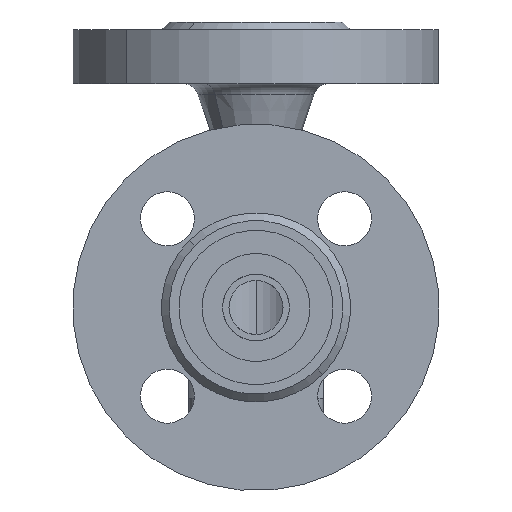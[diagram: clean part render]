
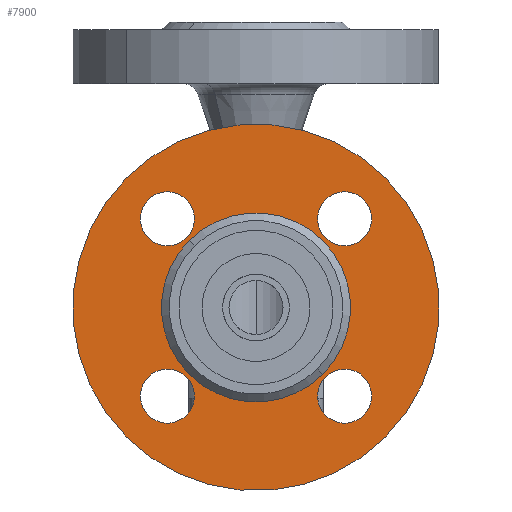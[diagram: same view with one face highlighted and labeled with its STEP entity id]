
A CAD part, left-side view. The second image highlights one B-rep face of the part: STEP entity #7900.
In plain terms, the highlighted planar face has unit normal (-1, 0, 0) as drawn and (0, -1, 0) by its records, which use the part's own axes.
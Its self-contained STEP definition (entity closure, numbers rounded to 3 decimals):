
#370 = FACE_BOUND ( 'NONE', #7825, .T. ) ;
#371 = FACE_BOUND ( 'NONE', #2601, .T. ) ;
#372 = FACE_BOUND ( 'NONE', #7923, .T. ) ;
#373 = FACE_BOUND ( 'NONE', #7077, .T. ) ;
#374 = FACE_OUTER_BOUND ( 'NONE', #1748, .T. ) ;
#375 = FACE_BOUND ( 'NONE', #4301, .T. ) ;
#376 = PLANE ( 'NONE',  #379 ) ;
#379 = AXIS2_PLACEMENT_3D ( 'NONE', #380, #381, #382 ) ;
#380 = CARTESIAN_POINT ( 'NONE',  ( 24.5, 2., 0. ) ) ;
#381 = DIRECTION ( 'NONE',  ( 0., 1., 0. ) ) ;
#382 = DIRECTION ( 'NONE',  ( -1., 0., 0. ) ) ;
#571 = CARTESIAN_POINT ( 'NONE',  ( 7., 2., -32.5 ) ) ;
#574 = CARTESIAN_POINT ( 'NONE',  ( 7., 2., 32.5 ) ) ;
#585 = CARTESIAN_POINT ( 'NONE',  ( 24.5, 2., 0. ) ) ;
#599 = CARTESIAN_POINT ( 'NONE',  ( -7., 2., 32.5 ) ) ;
#754 = ORIENTED_EDGE ( 'NONE', *, *, #8033, .F. ) ;
#833 = CARTESIAN_POINT ( 'NONE',  ( -7., 2., -32.5 ) ) ;
#951 = VERTEX_POINT ( 'NONE', #10657 ) ;
#1168 = VERTEX_POINT ( 'NONE', #10724 ) ;
#1261 = ORIENTED_EDGE ( 'NONE', *, *, #3590, .F. ) ;
#1383 = EDGE_CURVE ( 'NONE', #1168, #951, #11067, .T. ) ;
#1588 = CARTESIAN_POINT ( 'NONE',  ( 47.5, 2., 0. ) ) ;
#1748 = EDGE_LOOP ( 'NONE', ( #1261, #754 ) ) ;
#1979 = ORIENTED_EDGE ( 'NONE', *, *, #1383, .T. ) ;
#2199 = CARTESIAN_POINT ( 'NONE',  ( -47.5, 2., 0. ) ) ;
#2432 = CIRCLE ( 'NONE', #2433, 47.5 ) ;
#2433 = AXIS2_PLACEMENT_3D ( 'NONE', #2434, #2435, #2436 ) ;
#2434 = CARTESIAN_POINT ( 'NONE',  ( 0., 2., 0. ) ) ;
#2435 = DIRECTION ( 'NONE',  ( 0., 1., 0. ) ) ;
#2436 = DIRECTION ( 'NONE',  ( -1., 0., 0. ) ) ;
#2438 = CIRCLE ( 'NONE', #2439, 47.5 ) ;
#2439 = AXIS2_PLACEMENT_3D ( 'NONE', #2440, #2441, #2442 ) ;
#2440 = CARTESIAN_POINT ( 'NONE',  ( 0., 2., 0. ) ) ;
#2441 = DIRECTION ( 'NONE',  ( 0., 1., 0. ) ) ;
#2442 = DIRECTION ( 'NONE',  ( -1., 0., 0. ) ) ;
#2601 = EDGE_LOOP ( 'NONE', ( #2829, #7943 ) ) ;
#2829 = ORIENTED_EDGE ( 'NONE', *, *, #4842, .T. ) ;
#3148 = VERTEX_POINT ( 'NONE', #1588 ) ;
#3298 = ORIENTED_EDGE ( 'NONE', *, *, #5852, .T. ) ;
#3371 = VERTEX_POINT ( 'NONE', #2199 ) ;
#3590 = EDGE_CURVE ( 'NONE', #3371, #3148, #2432, .T. ) ;
#3805 = ORIENTED_EDGE ( 'NONE', *, *, #5715, .T. ) ;
#4301 = EDGE_LOOP ( 'NONE', ( #3805, #3298 ) ) ;
#4722 = CARTESIAN_POINT ( 'NONE',  ( -39.5, 2., 0. ) ) ;
#4762 = CIRCLE ( 'NONE', #4763, 7. ) ;
#4763 = AXIS2_PLACEMENT_3D ( 'NONE', #4764, #4765, #4766 ) ;
#4764 = CARTESIAN_POINT ( 'NONE',  ( 0., 2., 32.5 ) ) ;
#4765 = DIRECTION ( 'NONE',  ( 0., 1., 0. ) ) ;
#4766 = DIRECTION ( 'NONE',  ( -1., 0., 0. ) ) ;
#4823 = CIRCLE ( 'NONE', #4824, 7. ) ;
#4824 = AXIS2_PLACEMENT_3D ( 'NONE', #4825, #4826, #4827 ) ;
#4825 = CARTESIAN_POINT ( 'NONE',  ( -32.5, 2., 0. ) ) ;
#4826 = DIRECTION ( 'NONE',  ( 0., 1., 0. ) ) ;
#4827 = DIRECTION ( 'NONE',  ( -1., 0., 0. ) ) ;
#4842 = EDGE_CURVE ( 'NONE', #8154, #7823, #4823, .T. ) ;
#5500 = VERTEX_POINT ( 'NONE', #5586 ) ;
#5586 = CARTESIAN_POINT ( 'NONE',  ( -24.5, 2., 0. ) ) ;
#5623 = ORIENTED_EDGE ( 'NONE', *, *, #7777, .T. ) ;
#5628 = CIRCLE ( 'NONE', #5629, 7. ) ;
#5629 = AXIS2_PLACEMENT_3D ( 'NONE', #5630, #5631, #5632 ) ;
#5630 = CARTESIAN_POINT ( 'NONE',  ( 0., 2., 32.5 ) ) ;
#5631 = DIRECTION ( 'NONE',  ( 0., 1., 0. ) ) ;
#5632 = DIRECTION ( 'NONE',  ( -1., 0., 0. ) ) ;
#5660 = EDGE_CURVE ( 'NONE', #6809, #9694, #5628, .T. ) ;
#5715 = EDGE_CURVE ( 'NONE', #5500, #6845, #5831, .T. ) ;
#5831 = CIRCLE ( 'NONE', #5832, 24.5 ) ;
#5832 = AXIS2_PLACEMENT_3D ( 'NONE', #5834, #5835, #5836 ) ;
#5834 = CARTESIAN_POINT ( 'NONE',  ( 0., 2., 0. ) ) ;
#5835 = DIRECTION ( 'NONE',  ( 0., 1., 0. ) ) ;
#5836 = DIRECTION ( 'NONE',  ( -1., 0., 0. ) ) ;
#5852 = EDGE_CURVE ( 'NONE', #6845, #5500, #6081, .T. ) ;
#6081 = CIRCLE ( 'NONE', #6082, 24.5 ) ;
#6082 = AXIS2_PLACEMENT_3D ( 'NONE', #6083, #6084, #6085 ) ;
#6083 = CARTESIAN_POINT ( 'NONE',  ( 0., 2., 0. ) ) ;
#6084 = DIRECTION ( 'NONE',  ( 0., 1., 0. ) ) ;
#6085 = DIRECTION ( 'NONE',  ( -1., 0., 0. ) ) ;
#6459 = ORIENTED_EDGE ( 'NONE', *, *, #7820, .T. ) ;
#6736 = ORIENTED_EDGE ( 'NONE', *, *, #7831, .T. ) ;
#6809 = VERTEX_POINT ( 'NONE', #574 ) ;
#6845 = VERTEX_POINT ( 'NONE', #585 ) ;
#7077 = EDGE_LOOP ( 'NONE', ( #6736, #1979 ) ) ;
#7084 = CIRCLE ( 'NONE', #7085, 7. ) ;
#7085 = AXIS2_PLACEMENT_3D ( 'NONE', #7086, #7087, #7088 ) ;
#7086 = CARTESIAN_POINT ( 'NONE',  ( -32.5, 2., 0. ) ) ;
#7087 = DIRECTION ( 'NONE',  ( 0., 1., 0. ) ) ;
#7088 = DIRECTION ( 'NONE',  ( -1., 0., 0. ) ) ;
#7307 = ORIENTED_EDGE ( 'NONE', *, *, #5660, .T. ) ;
#7777 = EDGE_CURVE ( 'NONE', #7927, #9606, #10618, .T. ) ;
#7820 = EDGE_CURVE ( 'NONE', #9606, #7927, #11006, .T. ) ;
#7823 = VERTEX_POINT ( 'NONE', #11052 ) ;
#7825 = EDGE_LOOP ( 'NONE', ( #5623, #6459 ) ) ;
#7831 = EDGE_CURVE ( 'NONE', #951, #1168, #11077, .T. ) ;
#7889 = ORIENTED_EDGE ( 'NONE', *, *, #8163, .T. ) ;
#7900 = ADVANCED_FACE ( 'NONE', ( #370, #371, #372, #373, #374, #375 ), #376, .F. ) ;
#7923 = EDGE_LOOP ( 'NONE', ( #7889, #7307 ) ) ;
#7927 = VERTEX_POINT ( 'NONE', #833 ) ;
#7943 = ORIENTED_EDGE ( 'NONE', *, *, #8833, .T. ) ;
#8033 = EDGE_CURVE ( 'NONE', #3148, #3371, #2438, .T. ) ;
#8154 = VERTEX_POINT ( 'NONE', #4722 ) ;
#8163 = EDGE_CURVE ( 'NONE', #9694, #6809, #4762, .T. ) ;
#8833 = EDGE_CURVE ( 'NONE', #7823, #8154, #7084, .T. ) ;
#9606 = VERTEX_POINT ( 'NONE', #571 ) ;
#9694 = VERTEX_POINT ( 'NONE', #599 ) ;
#10618 = CIRCLE ( 'NONE', #10619, 7. ) ;
#10619 = AXIS2_PLACEMENT_3D ( 'NONE', #10620, #10621, #10622 ) ;
#10620 = CARTESIAN_POINT ( 'NONE',  ( 0., 2., -32.5 ) ) ;
#10621 = DIRECTION ( 'NONE',  ( 0., 1., 0. ) ) ;
#10622 = DIRECTION ( 'NONE',  ( -1., 0., 0. ) ) ;
#10657 = CARTESIAN_POINT ( 'NONE',  ( 25.5, 2., 0. ) ) ;
#10724 = CARTESIAN_POINT ( 'NONE',  ( 39.5, 2., 0. ) ) ;
#11006 = CIRCLE ( 'NONE', #11007, 7. ) ;
#11007 = AXIS2_PLACEMENT_3D ( 'NONE', #11008, #11009, #11012 ) ;
#11008 = CARTESIAN_POINT ( 'NONE',  ( 0., 2., -32.5 ) ) ;
#11009 = DIRECTION ( 'NONE',  ( 0., 1., 0. ) ) ;
#11012 = DIRECTION ( 'NONE',  ( -1., 0., 0. ) ) ;
#11052 = CARTESIAN_POINT ( 'NONE',  ( -25.5, 2., 0. ) ) ;
#11067 = CIRCLE ( 'NONE', #11068, 7. ) ;
#11068 = AXIS2_PLACEMENT_3D ( 'NONE', #11069, #11070, #11071 ) ;
#11069 = CARTESIAN_POINT ( 'NONE',  ( 32.5, 2., 0. ) ) ;
#11070 = DIRECTION ( 'NONE',  ( 0., 1., 0. ) ) ;
#11071 = DIRECTION ( 'NONE',  ( -1., 0., 0. ) ) ;
#11077 = CIRCLE ( 'NONE', #11078, 7. ) ;
#11078 = AXIS2_PLACEMENT_3D ( 'NONE', #11079, #11080, #11081 ) ;
#11079 = CARTESIAN_POINT ( 'NONE',  ( 32.5, 2., 0. ) ) ;
#11080 = DIRECTION ( 'NONE',  ( 0., 1., 0. ) ) ;
#11081 = DIRECTION ( 'NONE',  ( -1., 0., 0. ) ) ;
